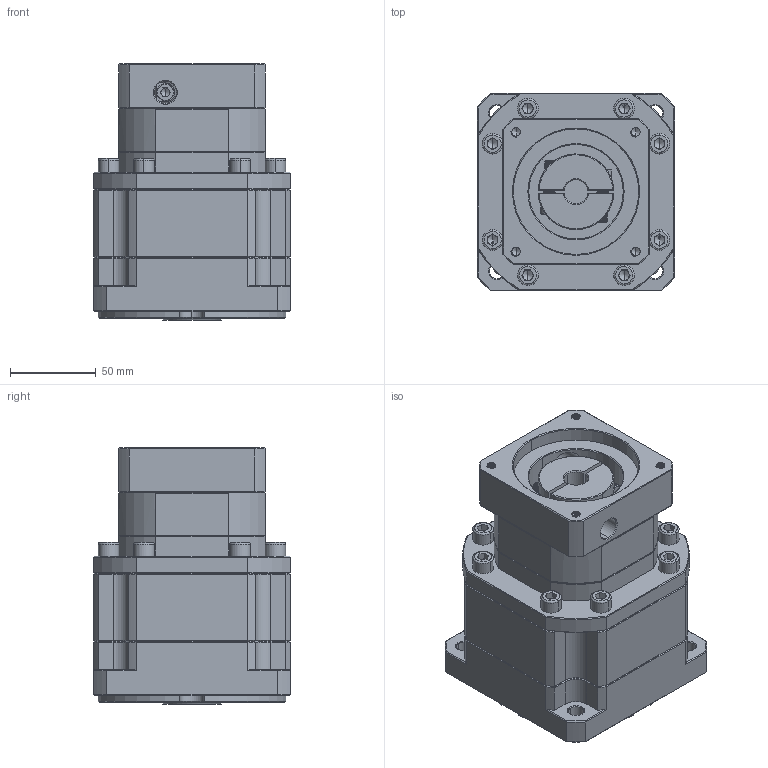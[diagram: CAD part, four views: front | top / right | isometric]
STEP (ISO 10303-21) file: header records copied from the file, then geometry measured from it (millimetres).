
FILE_DESCRIPTION (( 'STEP AP214' ), '1' );
FILE_NAME ('ZB115A-K25-L2-P2-14-73-69.6X69.6-M6.step', '2023-08-26T10:04:25', ( '' ), ( '' ), 'SwSTEP 2.0', 'SolidWorks 2016', '' );
FILE_SCHEMA (( 'AUTOMOTIVE_DESIGN' ));
Length unit declared in the file: millimetre
Products named in the file (1): ZB115A-K25-L2-P2-14-73-69.6X69.6-M6
Bounding box: 115 x 115 x 149 mm (x, y, z)
Volume: 1313041 mm3; surface area: 131381.3 mm2
Topology: 5 solids, 6 shells, 2359 faces, 6187 edges, 3930 vertices
Faces by surface type: plane 1183, bspline 418, cylinder 393, cone 350, torus 15
Entity records: 122960 total; most frequent: CARTESIAN_POINT 42323, ORIENTED_EDGE 12302, DIRECTION 9777, EDGE_CURVE 6151, VECTOR 3989, LINE 3989, VERTEX_POINT 3930, AXIS2_PLACEMENT_3D 2894
